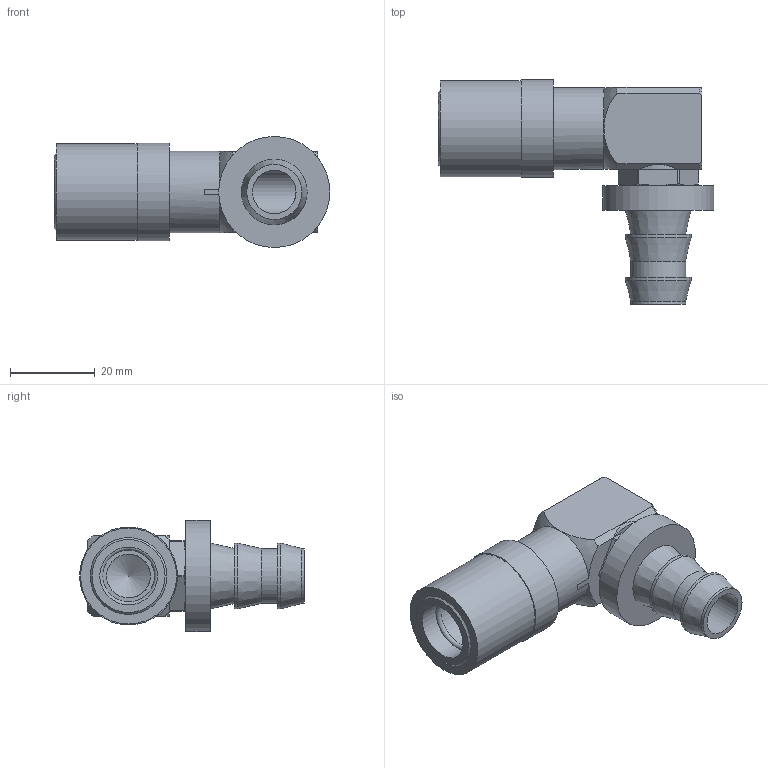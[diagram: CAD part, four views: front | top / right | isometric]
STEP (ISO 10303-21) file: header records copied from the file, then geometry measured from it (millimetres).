
FILE_DESCRIPTION(/* description */ ('STEP AP214'),/* implementation_level */ '2;1');
FILE_NAME(/* name */ 'JSL0318-V',/* time_stamp */ '2024-12-19T09:12:42+01:00',/* author */ ('License CC BY-ND 4.0'),/* organization */ ('CADENAS'),/* preprocessor_version */ 'ST-DEVELOPER v19.3',/* originating_system */ 'PARTsolutions',/* authorisation */ ' ');
FILE_SCHEMA (('AUTOMOTIVE_DESIGN {1 0 10303 214 3 1 1}'));
Length unit declared in the file: inch
Products named in the file (1): JSL0318-V
Bounding box: 64.89 x 52.93 x 26.16 mm (x, y, z)
Volume: 21420.3 mm3; surface area: 10954.1 mm2
Topology: 1 solids, 1 shells, 71 faces, 172 edges, 112 vertices
Faces by surface type: plane 34, cylinder 22, sphere 8, cone 6, torus 1
Full cylindrical faces by diameter (mm): 10.262 x1, 10.312 x1, 12.954 x3, 13.564 x2, 15.494 x2, 19.304 x1, 22.606 x1, 23.058 x1, 26.162 x1
Entity records: 2048 total; most frequent: CARTESIAN_POINT 396, DIRECTION 361, ORIENTED_EDGE 294, AXIS2_PLACEMENT_3D 150, EDGE_CURVE 147, VERTEX_POINT 108, FACE_BOUND 103, EDGE_LOOP 102
